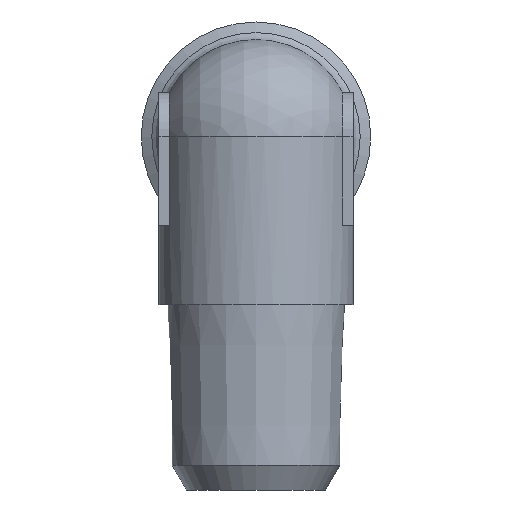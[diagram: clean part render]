
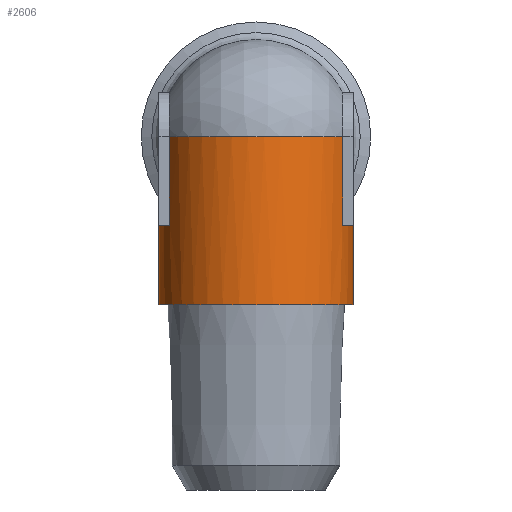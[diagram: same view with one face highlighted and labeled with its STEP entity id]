
A CAD part, left-side view. The second image highlights one B-rep face of the part: STEP entity #2606.
In plain terms, the highlighted cylindrical face has radius 5.5 mm (diameter 11 mm), a full revolution.
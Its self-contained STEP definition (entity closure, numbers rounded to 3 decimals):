
#11=ELLIPSE('',#2495,7.778,5.5);
#28=VECTOR('',#1918,1.);
#29=VECTOR('',#1923,1.);
#30=VECTOR('',#1928,1.);
#31=VECTOR('',#1931,1.);
#66=LINE('',#2355,#28);
#67=LINE('',#2360,#29);
#68=LINE('',#2365,#30);
#69=LINE('',#2368,#31);
#1092=CYLINDRICAL_SURFACE('',#2510,5.5);
#1224=ORIENTED_EDGE('',*,*,#1492,.T.);
#1225=ORIENTED_EDGE('',*,*,#1469,.F.);
#1226=ORIENTED_EDGE('',*,*,#1493,.F.);
#1227=ORIENTED_EDGE('',*,*,#1494,.F.);
#1228=ORIENTED_EDGE('',*,*,#1495,.F.);
#1229=ORIENTED_EDGE('',*,*,#1496,.F.);
#1230=ORIENTED_EDGE('',*,*,#1475,.F.);
#1231=ORIENTED_EDGE('',*,*,#1491,.F.);
#1232=ORIENTED_EDGE('',*,*,#1490,.F.);
#1233=ORIENTED_EDGE('',*,*,#1497,.F.);
#1234=ORIENTED_EDGE('',*,*,#1498,.F.);
#1339=CIRCLE('',#2500,5.5);
#1342=CIRCLE('',#2508,5.5);
#1343=CIRCLE('',#2511,5.5);
#1344=CIRCLE('',#2512,5.5);
#1345=CIRCLE('',#2513,5.5);
#1346=CIRCLE('',#2514,5.5);
#1394=VERTEX_POINT('',#2309);
#1395=VERTEX_POINT('',#2311);
#1399=VERTEX_POINT('',#2321);
#1400=VERTEX_POINT('',#2323);
#1404=VERTEX_POINT('',#2339);
#1409=VERTEX_POINT('',#2351);
#1410=VERTEX_POINT('',#2357);
#1411=VERTEX_POINT('',#2359);
#1412=VERTEX_POINT('',#2361);
#1413=VERTEX_POINT('',#2363);
#1414=VERTEX_POINT('',#2366);
#1469=EDGE_CURVE('',#1394,#1395,#11,.T.);
#1475=EDGE_CURVE('',#1399,#1400,#1339,.T.);
#1490=EDGE_CURVE('',#1404,#1409,#1342,.T.);
#1491=EDGE_CURVE('',#1409,#1399,#66,.T.);
#1492=EDGE_CURVE('',#1410,#1410,#1343,.T.);
#1493=EDGE_CURVE('',#1411,#1394,#67,.T.);
#1494=EDGE_CURVE('',#1412,#1411,#1344,.T.);
#1495=EDGE_CURVE('',#1413,#1412,#1345,.T.);
#1496=EDGE_CURVE('',#1400,#1413,#68,.T.);
#1497=EDGE_CURVE('',#1414,#1404,#1346,.T.);
#1498=EDGE_CURVE('',#1395,#1414,#69,.T.);
#1597=EDGE_LOOP('',(#1224));
#1598=EDGE_LOOP('',(#1225,#1226,#1227,#1228,#1229,#1230,#1231,#1232,#1233,
#1234));
#1698=FACE_BOUND('',#1597,.T.);
#1699=FACE_BOUND('',#1598,.T.);
#1874=DIRECTION('',(0.707,0.707,0.));
#1875=DIRECTION('',(0.707,-0.707,0.));
#1886=DIRECTION('',(0.,1.,0.));
#1887=DIRECTION('',(0.,0.,-5.5));
#1914=DIRECTION('',(0.,1.,0.));
#1915=DIRECTION('',(0.,0.,-5.5));
#1918=DIRECTION('',(0.,5.,0.));
#1919=DIRECTION('',(0.,1.,0.));
#1920=DIRECTION('',(1.,0.,0.));
#1921=DIRECTION('',(0.,1.,0.));
#1922=DIRECTION('',(5.5,0.,0.));
#1923=DIRECTION('',(0.,2.5,0.));
#1924=DIRECTION('',(0.,1.,0.));
#1925=DIRECTION('',(0.,0.,-5.5));
#1926=DIRECTION('',(0.,1.,0.));
#1927=DIRECTION('',(0.,0.,-5.5));
#1928=DIRECTION('',(0.,-5.,0.));
#1929=DIRECTION('',(0.,1.,0.));
#1930=DIRECTION('',(0.,0.,-5.5));
#1931=DIRECTION('',(0.,-2.5,0.));
#2309=CARTESIAN_POINT('',(2.5,-2.5,4.899));
#2311=CARTESIAN_POINT('',(2.5,-2.5,-4.899));
#2312=CARTESIAN_POINT('',(0.,0.,0.));
#2321=CARTESIAN_POINT('',(-2.5,0.,-4.899));
#2323=CARTESIAN_POINT('',(-2.5,0.,4.899));
#2324=CARTESIAN_POINT('',(0.,0.,0.));
#2339=CARTESIAN_POINT('',(0.,-5.,-5.5));
#2351=CARTESIAN_POINT('',(-2.5,-5.,-4.899));
#2353=CARTESIAN_POINT('',(0.,-5.,0.));
#2355=CARTESIAN_POINT('',(-2.5,-5.,-4.899));
#2356=CARTESIAN_POINT('',(0.,-9.5,0.));
#2357=CARTESIAN_POINT('',(5.5,-9.5,0.));
#2358=CARTESIAN_POINT('',(0.,-9.5,0.));
#2359=CARTESIAN_POINT('',(2.5,-5.,4.899));
#2360=CARTESIAN_POINT('',(2.5,-5.,4.899));
#2361=CARTESIAN_POINT('',(0.,-5.,5.5));
#2362=CARTESIAN_POINT('',(0.,-5.,0.));
#2363=CARTESIAN_POINT('',(-2.5,-5.,4.899));
#2364=CARTESIAN_POINT('',(0.,-5.,0.));
#2365=CARTESIAN_POINT('',(-2.5,0.,4.899));
#2366=CARTESIAN_POINT('',(2.5,-5.,-4.899));
#2367=CARTESIAN_POINT('',(0.,-5.,0.));
#2368=CARTESIAN_POINT('',(2.5,-2.5,-4.899));
#2495=AXIS2_PLACEMENT_3D('',#2312,#1874,#1875);
#2500=AXIS2_PLACEMENT_3D('',#2324,#1886,#1887);
#2508=AXIS2_PLACEMENT_3D('',#2353,#1914,#1915);
#2510=AXIS2_PLACEMENT_3D('',#2356,#1919,#1920);
#2511=AXIS2_PLACEMENT_3D('',#2358,#1921,#1922);
#2512=AXIS2_PLACEMENT_3D('',#2362,#1924,#1925);
#2513=AXIS2_PLACEMENT_3D('',#2364,#1926,#1927);
#2514=AXIS2_PLACEMENT_3D('',#2367,#1929,#1930);
#2606=ADVANCED_FACE('',(#1698,#1699),#1092,.T.);
